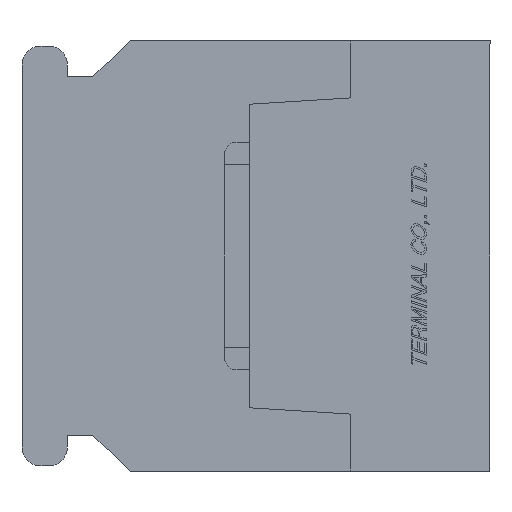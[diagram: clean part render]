
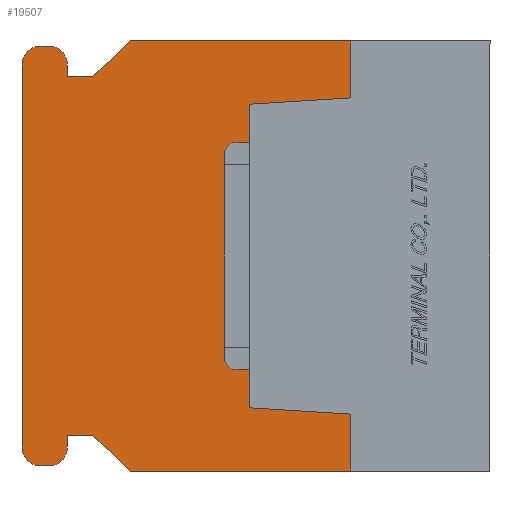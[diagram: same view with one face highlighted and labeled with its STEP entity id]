
A CAD part, left-side view. The second image highlights one B-rep face of the part: STEP entity #19507.
In plain terms, the highlighted planar face has unit normal (-1, 0, 0).
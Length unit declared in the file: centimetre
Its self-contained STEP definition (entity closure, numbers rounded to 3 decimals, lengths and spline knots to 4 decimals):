
#1474=VECTOR('',#22130,1.);
#1544=VECTOR('',#22226,1.);
#1915=VECTOR('',#22929,1.);
#1916=VECTOR('',#22930,1.);
#1917=VECTOR('',#22931,1.);
#1918=VECTOR('',#22932,1.);
#1919=VECTOR('',#22935,1.);
#1920=VECTOR('',#22938,1.);
#1921=VECTOR('',#22941,1.);
#1922=VECTOR('',#22944,1.);
#1923=VECTOR('',#22945,1.);
#1924=VECTOR('',#22946,1.);
#1925=VECTOR('',#22947,1.);
#1926=VECTOR('',#22948,1.);
#1927=VECTOR('',#22949,1.);
#1928=VECTOR('',#22950,1.);
#3538=LINE('',#27045,#1474);
#3608=LINE('',#27192,#1544);
#3979=LINE('',#28065,#1915);
#3980=LINE('',#28067,#1916);
#3981=LINE('',#28069,#1917);
#3982=LINE('',#28071,#1918);
#3983=LINE('',#28075,#1919);
#3984=LINE('',#28079,#1920);
#3985=LINE('',#28083,#1921);
#3986=LINE('',#28087,#1922);
#3987=LINE('',#28089,#1923);
#3988=LINE('',#28091,#1924);
#3989=LINE('',#28092,#1925);
#3990=LINE('',#28094,#1926);
#3991=LINE('',#28096,#1927);
#3992=LINE('',#28098,#1928);
#5335=PLANE('',#32405);
#6488=VERTEX_POINT('',#27044);
#6489=VERTEX_POINT('',#27046);
#6547=VERTEX_POINT('',#27191);
#6548=VERTEX_POINT('',#27193);
#6816=VERTEX_POINT('',#28066);
#6817=VERTEX_POINT('',#28068);
#6818=VERTEX_POINT('',#28070);
#6819=VERTEX_POINT('',#28072);
#6820=VERTEX_POINT('',#28074);
#6821=VERTEX_POINT('',#28076);
#6822=VERTEX_POINT('',#28078);
#6823=VERTEX_POINT('',#28080);
#6824=VERTEX_POINT('',#28082);
#6825=VERTEX_POINT('',#28084);
#6826=VERTEX_POINT('',#28086);
#6827=VERTEX_POINT('',#28088);
#6828=VERTEX_POINT('',#28090);
#6829=VERTEX_POINT('',#28093);
#6830=VERTEX_POINT('',#28095);
#6831=VERTEX_POINT('',#28097);
#7935=CIRCLE('',#32406,0.075);
#7936=CIRCLE('',#32407,0.075);
#7937=CIRCLE('',#32408,0.075);
#7938=CIRCLE('',#32409,0.075);
#9177=EDGE_CURVE('',#6488,#6489,#3538,.T.);
#9251=EDGE_CURVE('',#6547,#6548,#3608,.T.);
#9688=EDGE_CURVE('',#6816,#6548,#3979,.T.);
#9689=EDGE_CURVE('',#6817,#6547,#3980,.T.);
#9690=EDGE_CURVE('',#6818,#6817,#3981,.T.);
#9691=EDGE_CURVE('',#6819,#6818,#3982,.T.);
#9692=EDGE_CURVE('',#6820,#6819,#7935,.T.);
#9693=EDGE_CURVE('',#6821,#6820,#3983,.T.);
#9694=EDGE_CURVE('',#6822,#6821,#7936,.T.);
#9695=EDGE_CURVE('',#6823,#6822,#3984,.T.);
#9696=EDGE_CURVE('',#6824,#6823,#7937,.T.);
#9697=EDGE_CURVE('',#6825,#6824,#3985,.T.);
#9698=EDGE_CURVE('',#6826,#6825,#7938,.T.);
#9699=EDGE_CURVE('',#6827,#6826,#3986,.T.);
#9700=EDGE_CURVE('',#6828,#6827,#3987,.T.);
#9701=EDGE_CURVE('',#6489,#6828,#3988,.T.);
#9702=EDGE_CURVE('',#6488,#6829,#3989,.T.);
#9703=EDGE_CURVE('',#6829,#6830,#3990,.T.);
#9704=EDGE_CURVE('',#6830,#6831,#3991,.T.);
#9705=EDGE_CURVE('',#6831,#6816,#3992,.T.);
#14198=ORIENTED_EDGE('',*,*,#9688,.T.);
#14199=ORIENTED_EDGE('',*,*,#9251,.F.);
#14200=ORIENTED_EDGE('',*,*,#9689,.F.);
#14201=ORIENTED_EDGE('',*,*,#9690,.F.);
#14202=ORIENTED_EDGE('',*,*,#9691,.F.);
#14203=ORIENTED_EDGE('',*,*,#9692,.F.);
#14204=ORIENTED_EDGE('',*,*,#9693,.F.);
#14205=ORIENTED_EDGE('',*,*,#9694,.F.);
#14206=ORIENTED_EDGE('',*,*,#9695,.F.);
#14207=ORIENTED_EDGE('',*,*,#9696,.F.);
#14208=ORIENTED_EDGE('',*,*,#9697,.F.);
#14209=ORIENTED_EDGE('',*,*,#9698,.F.);
#14210=ORIENTED_EDGE('',*,*,#9699,.F.);
#14211=ORIENTED_EDGE('',*,*,#9700,.F.);
#14212=ORIENTED_EDGE('',*,*,#9701,.F.);
#14213=ORIENTED_EDGE('',*,*,#9177,.F.);
#14214=ORIENTED_EDGE('',*,*,#9702,.T.);
#14215=ORIENTED_EDGE('',*,*,#9703,.T.);
#14216=ORIENTED_EDGE('',*,*,#9704,.T.);
#14217=ORIENTED_EDGE('',*,*,#9705,.T.);
#17225=EDGE_LOOP('',(#14198,#14199,#14200,#14201,#14202,#14203,#14204,#14205,
#14206,#14207,#14208,#14209,#14210,#14211,#14212,#14213,#14214,#14215,#14216,
#14217));
#18409=FACE_BOUND('',#17225,.T.);
#19507=ADVANCED_FACE('',(#18409),#5335,.F.);
#22130=DIRECTION('',(0.,1.,0.));
#22226=DIRECTION('',(0.,-1.,0.));
#22928=DIRECTION('',(1.,0.,0.));
#22929=DIRECTION('',(0.,0.,1.));
#22930=DIRECTION('',(0.,-0.731,0.682));
#22931=DIRECTION('',(0.,-1.,0.));
#22932=DIRECTION('',(0.,0.,-1.));
#22933=DIRECTION('',(1.,0.,0.));
#22934=DIRECTION('',(0.,0.,-0.075));
#22935=DIRECTION('',(0.,-1.,0.));
#22936=DIRECTION('',(1.,0.,0.));
#22937=DIRECTION('',(0.,0.,-0.075));
#22938=DIRECTION('',(0.,0.,1.));
#22939=DIRECTION('',(1.,0.,0.));
#22940=DIRECTION('',(0.,0.,-0.075));
#22941=DIRECTION('',(0.,1.,0.));
#22942=DIRECTION('',(1.,0.,0.));
#22943=DIRECTION('',(0.,0.,-0.075));
#22944=DIRECTION('',(0.,0.,-1.));
#22945=DIRECTION('',(0.,1.,0.));
#22946=DIRECTION('',(0.,0.731,0.682));
#22947=DIRECTION('',(0.,0.,1.));
#22948=DIRECTION('',(0.,0.998,0.062));
#22949=DIRECTION('',(0.,0.,1.));
#22950=DIRECTION('',(0.,-0.998,0.062));
#27044=CARTESIAN_POINT('',(-1.,0.55,-0.85));
#27045=CARTESIAN_POINT('',(-1.,0.,-0.85));
#27046=CARTESIAN_POINT('',(-1.,1.42,-0.85));
#27191=CARTESIAN_POINT('',(-1.,1.42,0.85));
#27192=CARTESIAN_POINT('',(-1.,1.42,0.85));
#27193=CARTESIAN_POINT('',(-1.,0.55,0.85));
#28064=CARTESIAN_POINT('',(-1.,0.9383,0.));
#28065=CARTESIAN_POINT('',(-1.,0.55,0.3687));
#28066=CARTESIAN_POINT('',(-1.,0.55,0.625));
#28067=CARTESIAN_POINT('',(-1.,1.57,0.71));
#28068=CARTESIAN_POINT('',(-1.,1.57,0.71));
#28069=CARTESIAN_POINT('',(-1.,1.67,0.71));
#28070=CARTESIAN_POINT('',(-1.,1.67,0.71));
#28071=CARTESIAN_POINT('',(-1.,1.67,0.755));
#28072=CARTESIAN_POINT('',(-1.,1.67,0.755));
#28073=CARTESIAN_POINT('',(-1.,1.745,0.755));
#28074=CARTESIAN_POINT('',(-1.,1.745,0.83));
#28075=CARTESIAN_POINT('',(-1.,1.775,0.83));
#28076=CARTESIAN_POINT('',(-1.,1.775,0.83));
#28077=CARTESIAN_POINT('',(-1.,1.775,0.755));
#28078=CARTESIAN_POINT('',(-1.,1.85,0.755));
#28079=CARTESIAN_POINT('',(-1.,1.85,-0.755));
#28080=CARTESIAN_POINT('',(-1.,1.85,-0.755));
#28081=CARTESIAN_POINT('',(-1.,1.775,-0.755));
#28082=CARTESIAN_POINT('',(-1.,1.775,-0.83));
#28083=CARTESIAN_POINT('',(-1.,1.745,-0.83));
#28084=CARTESIAN_POINT('',(-1.,1.745,-0.83));
#28085=CARTESIAN_POINT('',(-1.,1.745,-0.755));
#28086=CARTESIAN_POINT('',(-1.,1.67,-0.755));
#28087=CARTESIAN_POINT('',(-1.,1.67,-0.71));
#28088=CARTESIAN_POINT('',(-1.,1.67,-0.71));
#28089=CARTESIAN_POINT('',(-1.,1.57,-0.71));
#28090=CARTESIAN_POINT('',(-1.,1.57,-0.71));
#28091=CARTESIAN_POINT('',(-1.,1.42,-0.85));
#28092=CARTESIAN_POINT('',(-1.,0.55,-0.3688));
#28093=CARTESIAN_POINT('',(-1.,0.55,-0.625));
#28094=CARTESIAN_POINT('',(-1.,0.8629,-0.6054));
#28095=CARTESIAN_POINT('',(-1.,0.95,-0.6));
#28096=CARTESIAN_POINT('',(-1.,0.95,0.));
#28097=CARTESIAN_POINT('',(-1.,0.95,0.6));
#28098=CARTESIAN_POINT('',(-1.,0.8629,0.6054));
#32405=AXIS2_PLACEMENT_3D('',#28064,#22928,$);
#32406=AXIS2_PLACEMENT_3D('',#28073,#22933,#22934);
#32407=AXIS2_PLACEMENT_3D('',#28077,#22936,#22937);
#32408=AXIS2_PLACEMENT_3D('',#28081,#22939,#22940);
#32409=AXIS2_PLACEMENT_3D('',#28085,#22942,#22943);
